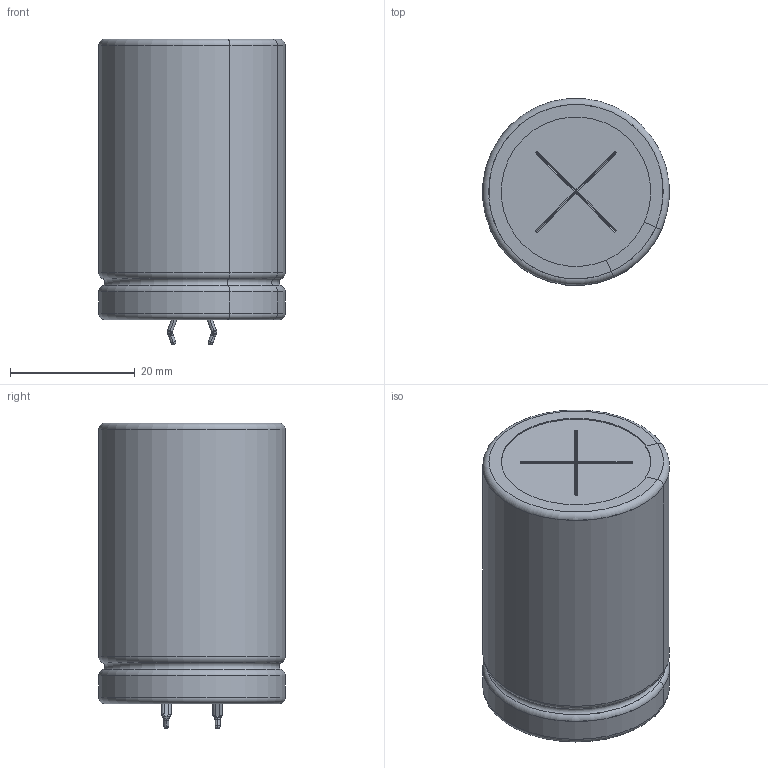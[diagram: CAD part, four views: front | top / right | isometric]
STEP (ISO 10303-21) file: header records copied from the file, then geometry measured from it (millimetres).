
FILE_DESCRIPTION(/* description */ (''),/* implementation_level */ '2;1');
FILE_NAME(/* name */ '30x45_Snap.stp',/* time_stamp */ '2017-09-11T16:06:51+09:00',/* author */ (''),/* organization */ (''),/* preprocessor_version */ 'ST-DEVELOPER v16',/* originating_system */ 'SIEMENS PLM Software NX 11.0',/* authorisation */ '');
FILE_SCHEMA (('AUTOMOTIVE_DESIGN { 1 0 10303 214 3 1 1 1 }'));
Length unit declared in the file: millimetre
Products named in the file (1): 30x45_Snap_0
Bounding box: 29.91 x 29.91 x 49.02 mm (x, y, z)
Volume: 31475.2 mm3; surface area: 15125.1 mm2
Topology: 5 solids, 5 shells, 208 faces, 523 edges, 310 vertices
Faces by surface type: cylinder 76, plane 75, torus 25, sphere 20, bspline 12
Full cylindrical faces by diameter (mm): 4 x2, 29.6 x2
Entity records: 6789 total; most frequent: CARTESIAN_POINT 1265, DIRECTION 1128, ORIENTED_EDGE 988, EDGE_CURVE 494, AXIS2_PLACEMENT_3D 437, VERTEX_POINT 310, LINE 254, VECTOR 254
